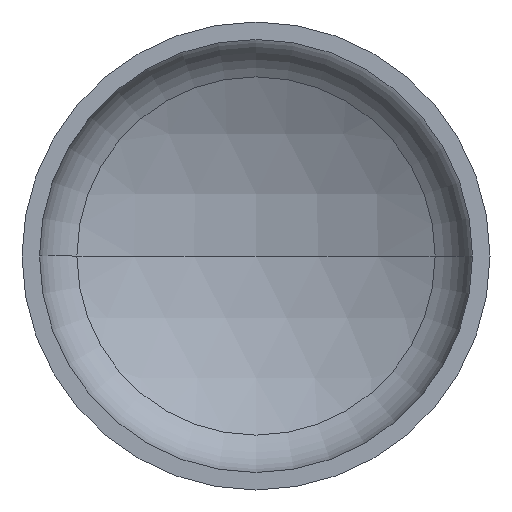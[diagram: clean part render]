
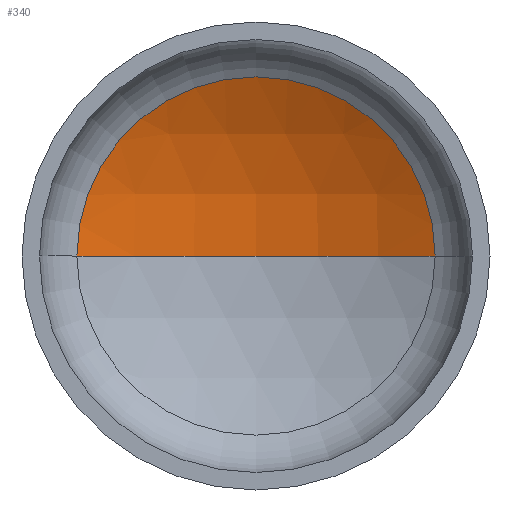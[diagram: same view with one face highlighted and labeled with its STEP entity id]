
A CAD part, front view. The second image highlights one B-rep face of the part: STEP entity #340.
In plain terms, the highlighted spherical face has radius 2400 mm.
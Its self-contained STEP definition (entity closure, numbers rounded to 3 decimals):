
#17 = AXIS2_PLACEMENT_3D ( 'NONE', #156, #302, #159 ) ;
#19 = AXIS2_PLACEMENT_3D ( 'NONE', #283, #236, #396 ) ;
#20 = AXIS2_PLACEMENT_3D ( 'NONE', #38, #393, #125 ) ;
#21 = EDGE_LOOP ( 'NONE', ( #126, #68, #225 ) ) ;
#24 = VERTEX_POINT ( 'NONE', #247 ) ;
#38 = CARTESIAN_POINT ( 'NONE',  ( 0., -1628.648, 0. ) ) ;
#61 = DIRECTION ( 'NONE',  ( 1., 0., 0. ) ) ;
#68 = ORIENTED_EDGE ( 'NONE', *, *, #349, .T. ) ;
#99 = VERTEX_POINT ( 'NONE', #308 ) ;
#121 = VERTEX_POINT ( 'NONE', #300 ) ;
#125 = DIRECTION ( 'NONE',  ( -1., 0., 0. ) ) ;
#126 = ORIENTED_EDGE ( 'NONE', *, *, #390, .F. ) ;
#156 = CARTESIAN_POINT ( 'NONE',  ( 0., -1628.648, 0. ) ) ;
#159 = DIRECTION ( 'NONE',  ( -1., 0., 0. ) ) ;
#213 = CIRCLE ( 'NONE', #17, 2400. ) ;
#225 = ORIENTED_EDGE ( 'NONE', *, *, #348, .T. ) ;
#227 = AXIS2_PLACEMENT_3D ( 'NONE', #402, #265, #61 ) ;
#236 = DIRECTION ( 'NONE',  ( 0., -1., 0. ) ) ;
#247 = CARTESIAN_POINT ( 'NONE',  ( 0., 771.352, 0. ) ) ;
#265 = DIRECTION ( 'NONE',  ( 0., 0., 1. ) ) ;
#283 = CARTESIAN_POINT ( 'NONE',  ( 0., 478.958, 0. ) ) ;
#300 = CARTESIAN_POINT ( 'NONE',  ( -1148.041, 478.958, 0. ) ) ;
#302 = DIRECTION ( 'NONE',  ( 0., 0., -1. ) ) ;
#308 = CARTESIAN_POINT ( 'NONE',  ( 1148.041, 478.958, 0. ) ) ;
#340 = ADVANCED_FACE ( 'NONE', ( #397 ), #343, .F. ) ;
#343 = SPHERICAL_SURFACE ( 'NONE', #20, 2400. ) ;
#348 = EDGE_CURVE ( 'NONE', #99, #121, #408, .T. ) ;
#349 = EDGE_CURVE ( 'NONE', #24, #99, #213, .T. ) ;
#375 = CIRCLE ( 'NONE', #227, 2400. ) ;
#390 = EDGE_CURVE ( 'NONE', #24, #121, #375, .T. ) ;
#393 = DIRECTION ( 'NONE',  ( 0., 0., -1. ) ) ;
#396 = DIRECTION ( 'NONE',  ( 1., 0., 0. ) ) ;
#397 = FACE_OUTER_BOUND ( 'NONE', #21, .T. ) ;
#402 = CARTESIAN_POINT ( 'NONE',  ( 0., -1628.648, 0. ) ) ;
#408 = CIRCLE ( 'NONE', #19, 1148.041 ) ;
